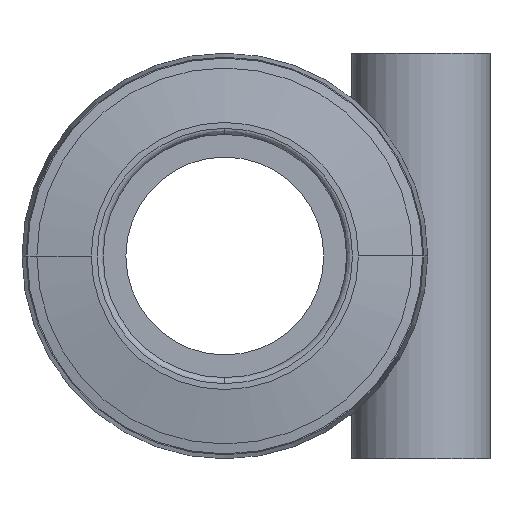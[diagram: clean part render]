
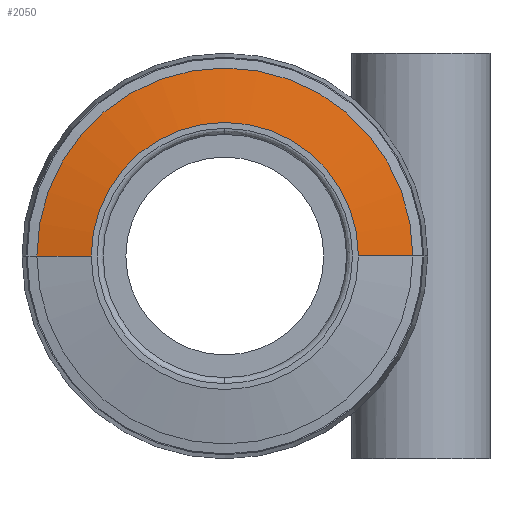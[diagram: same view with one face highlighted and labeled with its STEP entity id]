
A CAD part, front view. The second image highlights one B-rep face of the part: STEP entity #2050.
In plain terms, the highlighted conical face has half-angle 80 degrees and reference radius 8.125 mm.
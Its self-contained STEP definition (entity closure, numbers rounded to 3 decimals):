
#37 = CARTESIAN_POINT ( 'NONE',  ( -6.75, -24.15, 0. ) ) ;
#38 = CARTESIAN_POINT ( 'NONE',  ( 0., -23.908, 0. ) ) ;
#132 = ORIENTED_EDGE ( 'NONE', *, *, #1994, .F. ) ;
#155 = VECTOR ( 'NONE', #1496, 1000. ) ;
#198 = DIRECTION ( 'NONE',  ( -1., 0., 0. ) ) ;
#289 = AXIS2_PLACEMENT_3D ( 'NONE', #1614, #967, #512 ) ;
#464 = DIRECTION ( 'NONE',  ( 0., 1., 0. ) ) ;
#512 = DIRECTION ( 'NONE',  ( -1., 0., 0. ) ) ;
#546 = DIRECTION ( 'NONE',  ( -1., 0., 0. ) ) ;
#700 = ORIENTED_EDGE ( 'NONE', *, *, #906, .F. ) ;
#714 = VERTEX_POINT ( 'NONE', #37 ) ;
#771 = DIRECTION ( 'NONE',  ( -0.985, 0.174, 0. ) ) ;
#815 = EDGE_CURVE ( 'NONE', #1314, #1578, #852, .T. ) ;
#852 = LINE ( 'NONE', #1968, #155 ) ;
#906 = EDGE_CURVE ( 'NONE', #1755, #1578, #1687, .T. ) ;
#909 = CIRCLE ( 'NONE', #289, 6.75 ) ;
#931 = CARTESIAN_POINT ( 'NONE',  ( 6.75, -24.15, 0. ) ) ;
#967 = DIRECTION ( 'NONE',  ( 0., 1., 0. ) ) ;
#976 = CARTESIAN_POINT ( 'NONE',  ( 9.5, -23.665, 0. ) ) ;
#1064 = AXIS2_PLACEMENT_3D ( 'NONE', #38, #464, #198 ) ;
#1097 = CARTESIAN_POINT ( 'NONE',  ( -9.5, -23.665, 0. ) ) ;
#1127 = EDGE_LOOP ( 'NONE', ( #1799, #1544, #700, #132 ) ) ;
#1209 = AXIS2_PLACEMENT_3D ( 'NONE', #1643, #1518, #546 ) ;
#1246 = LINE ( 'NONE', #1934, #1331 ) ;
#1314 = VERTEX_POINT ( 'NONE', #931 ) ;
#1331 = VECTOR ( 'NONE', #771, 1000. ) ;
#1494 = EDGE_CURVE ( 'NONE', #714, #1314, #909, .T. ) ;
#1496 = DIRECTION ( 'NONE',  ( 0.985, 0.174, 0. ) ) ;
#1518 = DIRECTION ( 'NONE',  ( 0., 1., 0. ) ) ;
#1544 = ORIENTED_EDGE ( 'NONE', *, *, #815, .T. ) ;
#1578 = VERTEX_POINT ( 'NONE', #976 ) ;
#1614 = CARTESIAN_POINT ( 'NONE',  ( 0., -24.15, 0. ) ) ;
#1643 = CARTESIAN_POINT ( 'NONE',  ( 0., -23.665, 0. ) ) ;
#1663 = CONICAL_SURFACE ( 'NONE', #1064, 8.125, 1.396 ) ;
#1687 = CIRCLE ( 'NONE', #1209, 9.5 ) ;
#1755 = VERTEX_POINT ( 'NONE', #1097 ) ;
#1799 = ORIENTED_EDGE ( 'NONE', *, *, #1494, .T. ) ;
#1883 = FACE_OUTER_BOUND ( 'NONE', #1127, .T. ) ;
#1934 = CARTESIAN_POINT ( 'NONE',  ( -8.125, -23.908, 0. ) ) ;
#1968 = CARTESIAN_POINT ( 'NONE',  ( 8.125, -23.908, 0. ) ) ;
#1994 = EDGE_CURVE ( 'NONE', #714, #1755, #1246, .T. ) ;
#2050 = ADVANCED_FACE ( 'NONE', ( #1883 ), #1663, .T. ) ;
